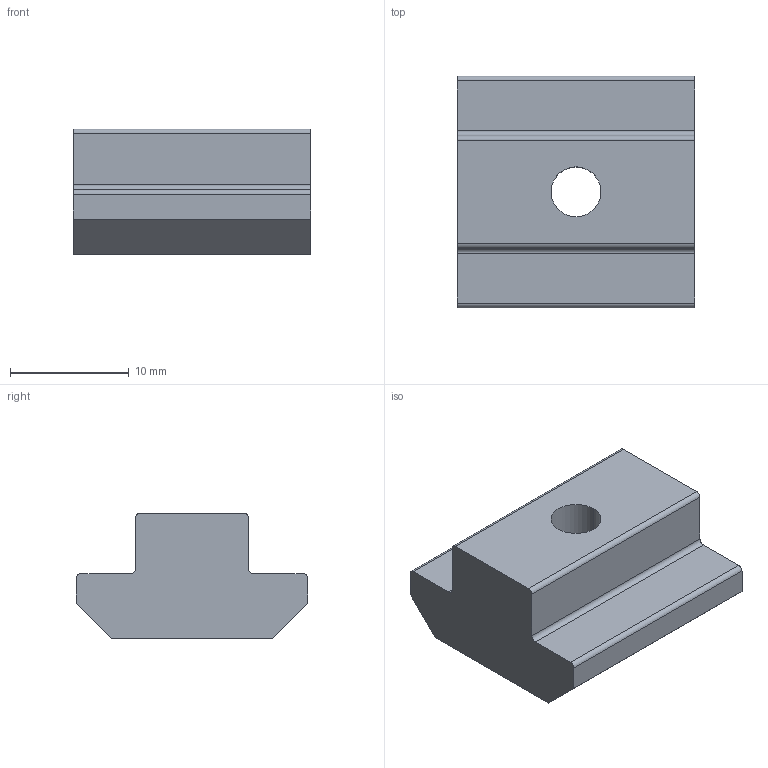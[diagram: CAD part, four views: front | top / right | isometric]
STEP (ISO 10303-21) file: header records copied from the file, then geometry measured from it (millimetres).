
FILE_DESCRIPTION (( 'STEP AP203' ), '1' );
FILE_NAME ('0110NSSM5.STEP', '2024-03-05T13:50:53', ( 'Windows-Benutzer' ), ( '' ), 'SwSTEP 2.0', 'SolidWorks 2023', '' );
FILE_SCHEMA (( 'CONFIG_CONTROL_DESIGN' ));
Length unit declared in the file: millimetre
Products named in the file (1): 0110NSSM5
Bounding box: 20 x 19.5 x 10.6 mm (x, y, z)
Volume: 2785.8 mm3; surface area: 1518.5 mm2
Topology: 1 solids, 1 shells, 20 faces, 54 edges, 36 vertices
Faces by surface type: plane 12, cylinder 8
Entity records: 715 total; most frequent: DIRECTION 112, CARTESIAN_POINT 111, ORIENTED_EDGE 108, EDGE_CURVE 54, LINE 38, VECTOR 38, AXIS2_PLACEMENT_3D 37, VERTEX_POINT 36
